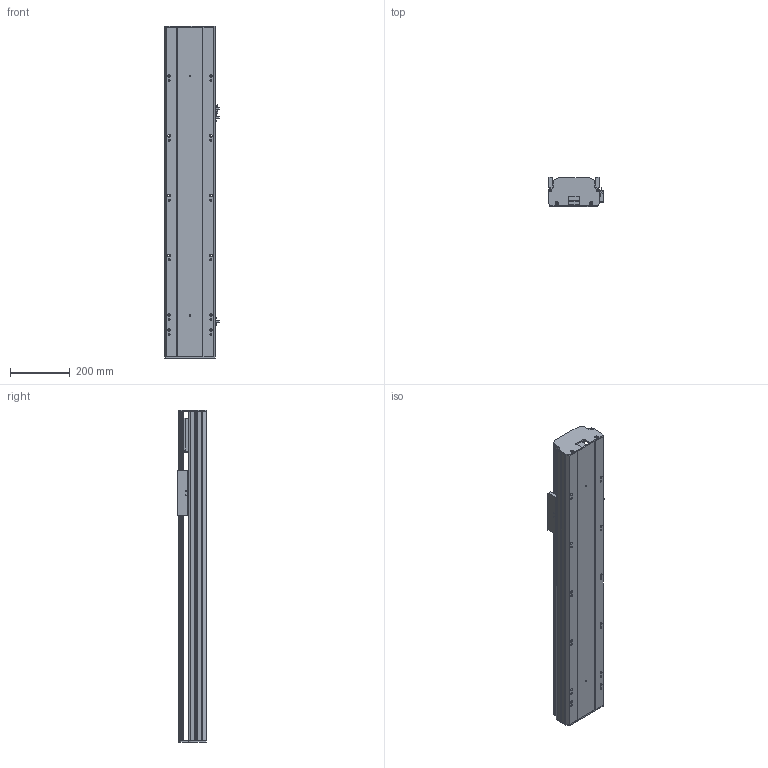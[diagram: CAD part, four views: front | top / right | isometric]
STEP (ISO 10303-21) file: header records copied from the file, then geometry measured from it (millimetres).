
FILE_DESCRIPTION (( 'STEP AP203' ), '1' );
FILE_NAME ('Y170-D10-S700-M-P400W.STEP', '2020-01-22T12:46:55', ( '微软用户' ), ( '微软中国' ), 'SwSTEP 2.0', 'SolidWorks 2017', '' );
FILE_SCHEMA (( 'CONFIG_CONTROL_DESIGN' ));
Length unit declared in the file: millimetre
Products named in the file (10): Y170--雄赽釱-梓--; 170--掛极-M; Y170耜裔--準---M; san松下电机400不带刹车----; Y170-陔遴奻裔-M; YD-Y100-135-新外置传感挡片(通用）; Y170-D10-S700-M-P400W; Y100-135俋离換覜ん; 135-盓傅釱-FK15; Y170耜裔--準---
Assembly tree (11 placements, depth 2):
  Y170-D10-S700-M-P400W
    YD-Y100-135-新外置传感挡片(通用）
    Y100-135俋离換覜ん  x3
    135-盓傅釱-FK15
    Y170耜裔--準---
    Y170--雄赽釱-梓--
    170--掛极-M
    Y170耜裔--準---M
    san松下电机400不带刹车----
    Y170-陔遴奻裔-M
Bounding box: 183.5 x 97 x 1111 mm (x, y, z)
Volume: 4923260 mm3; surface area: 1726215.7 mm2
Topology: 11 solids, 11 shells, 785 faces, 2228 edges, 1476 vertices
Faces by surface type: cylinder 399, plane 384, torus 2
Entity records: 25420 total; most frequent: CARTESIAN_POINT 4529, DIRECTION 4222, ORIENTED_EDGE 4120, EDGE_CURVE 2060, AXIS2_PLACEMENT_3D 1497, VERTEX_POINT 1364, LINE 1228, VECTOR 1228
